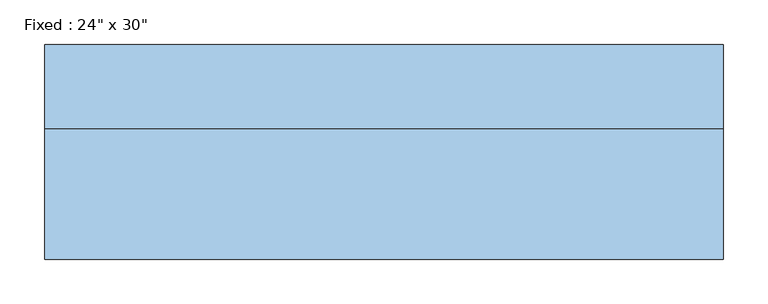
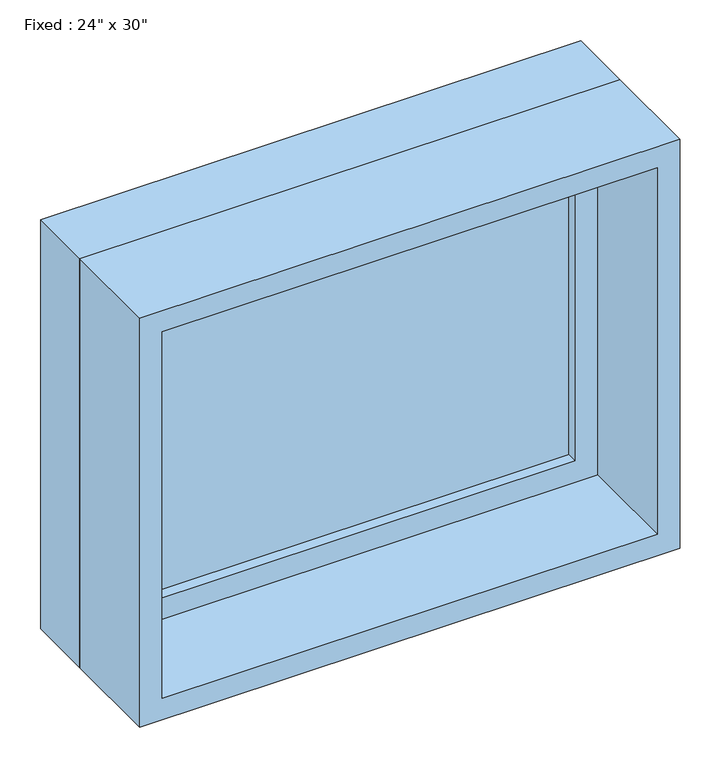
"""IFC4 building model written with IfcOpenShell, lengths in millimetres: window geometry."""

from ifc_helpers import new_model, si_unit, frame, origin, place, context, project, spatial, polyline, outline, extrude, source, transform, mapped, element, save


def window_8bf192ed(model_context):
    return source(origin(), model_context, "Body", "SweptSolid", [
        extrude(outline(polyline([(279.4, 41.275), (-355.6, 41.275), (-355.6, 53.975), (279.4, 53.975), (279.4, 41.275)])), frame((0.0, 0.0, 977.9), z_axis=(0.0, 0.0, 1.0), x_axis=(1.0, 0.0, 0.0)), (0.0, 0.0, 1.0), 482.6),
        extrude(outline(polyline([(1504.95, -400.05), (933.45, -400.05), (933.45, 323.85), (1504.95, 323.85), (1504.95, -400.05)]), holes=[polyline([(1460.5, -355.6), (1460.5, 279.4), (977.9, 279.4), (977.9, -355.6), (1460.5, -355.6)])]), frame((0.0, 25.4, 0.0), z_axis=(0.0, 1.0, 0.0), x_axis=(0.0, 0.0, 1.0)), (0.0, 0.0, 1.0), 44.45),
        extrude(outline(polyline([(1524.0, -419.1), (914.4, -419.1), (914.4, 342.9), (1524.0, 342.9), (1524.0, -419.1)]), holes=[polyline([(1492.25, -387.35), (1492.25, 311.15), (946.15, 311.15), (946.15, -387.35), (1492.25, -387.35)])]), frame((0.0, -120.65, 0.0), z_axis=(0.0, 1.0, 0.0), x_axis=(0.0, 0.0, 1.0)), (0.0, 0.0, 1.0), 146.05),
        extrude(outline(polyline([(1524.0, 342.9), (1524.0, -419.1), (914.4, -419.1), (914.4, 342.9), (1524.0, 342.9)]), holes=[polyline([(1504.95, 323.85), (933.45, 323.85), (933.45, -400.05), (1504.95, -400.05), (1504.95, 323.85)])]), frame((0.0, 25.4, 0.0), z_axis=(0.0, 1.0, 0.0), x_axis=(0.0, 0.0, 1.0)), (0.0, 0.0, 1.0), 95.25),
    ])


if __name__ == "__main__":
    model = new_model("IFC4")
    model_context = context("Model", 3, world=origin())
    ifc_project = project(units=[si_unit("LENGTHUNIT", "METRE", prefix="MILLI")], contexts=[model_context])
    site = spatial("IfcSite", under=ifc_project)
    building = spatial("IfcBuilding", under=site)
    placement = place(None, origin())
    window_shape = window_8bf192ed(model_context)
    element("IfcWindow", 1, ObjectType="Fixed : 24\" x 30\"", at=placement, inside=building, context=model_context, shape_type="MappedRepresentation", body=[
        mapped(window_shape, transform((0.0, 0.0, 0.0), x_axis=(1.0, 0.0, 0.0), y_axis=(0.0, 1.0, 0.0), z_axis=(0.0, 0.0, 1.0))),
    ])
    save(model, "model.ifc")
